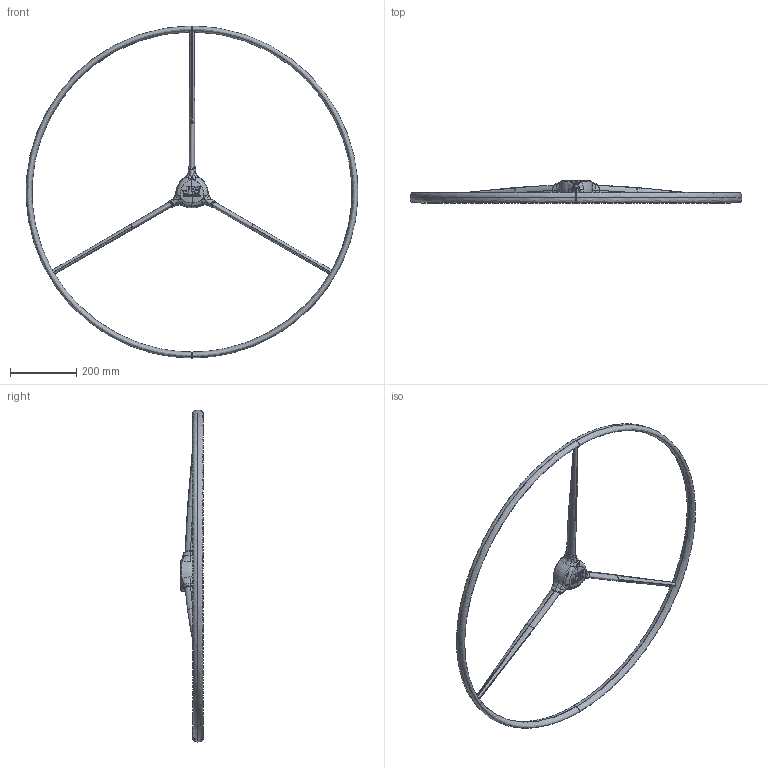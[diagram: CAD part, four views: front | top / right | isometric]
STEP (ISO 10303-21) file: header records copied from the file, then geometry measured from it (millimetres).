
FILE_DESCRIPTION(/* description */ (''),/* implementation_level */ '2;1');
FILE_NAME(/* name */ 'Roue_Titanium_1000',/* time_stamp */ '2009-12-11T11:40:51+01:00',/* author */ (''),/* organization */ (''),/* preprocessor_version */ 'ST-DEVELOPER v10',/* originating_system */ '',/* authorisation */ '');
FILE_SCHEMA (('CONFIG_CONTROL_DESIGN'));
Length unit declared in the file: millimetre
Products named in the file (1): 1
Bounding box: 999.13 x 66.5 x 1000 mm (x, y, z)
Volume: 548230.2 mm3; surface area: 691303.6 mm2
Topology: 6 solids, 21 shells, 215 faces, 639 edges, 451 vertices
Faces by surface type: bspline 215
Entity records: 27795 total; most frequent: CARTESIAN_POINT 24395, ORIENTED_EDGE 1163, EDGE_CURVE 637, VERTEX_POINT 451, B_SPLINE_CURVE_WITH_KNOTS 272, EDGE_LOOP 252, ADVANCED_FACE 215, FACE_OUTER_BOUND 215
